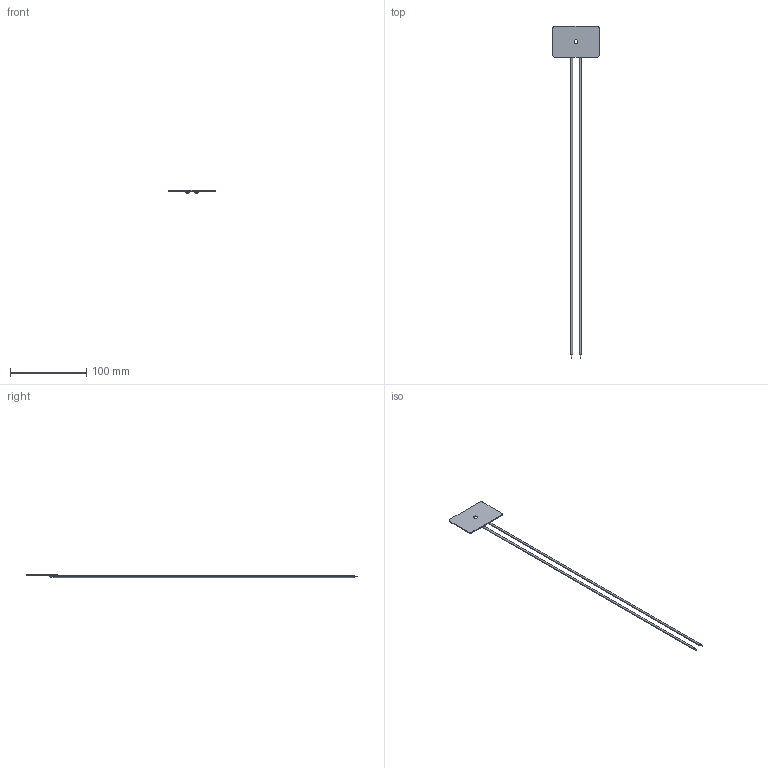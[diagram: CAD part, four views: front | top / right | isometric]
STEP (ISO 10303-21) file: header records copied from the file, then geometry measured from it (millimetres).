
FILE_DESCRIPTION (( 'STEP AP214' ), '1' );
FILE_NAME ('DC061-Z1.STEP', '2015-07-07T06:25:56', ( 'SIGMATEK GmbH & Co KG' ), ( 'SIGMATEK GmbH & Co KG' ), 'SwSTEP 2.0', 'SolidWorks 2013', '' );
FILE_SCHEMA (( 'AUTOMOTIVE_DESIGN' ));
Length unit declared in the file: millimetre
Products named in the file (1): DC061-Z1
Bounding box: 61.1 x 435.5 x 4.2 mm (x, y, z)
Volume: 7271.8 mm3; surface area: 11929.5 mm2
Topology: 3 solids, 3 shells, 50 faces, 108 edges, 72 vertices
Faces by surface type: plane 28, cylinder 20, bspline 2
Entity records: 2110 total; most frequent: CARTESIAN_POINT 397, DIRECTION 230, ORIENTED_EDGE 216, EDGE_CURVE 108, AXIS2_PLACEMENT_3D 85, VERTEX_POINT 72, EDGE_LOOP 60, LINE 60
